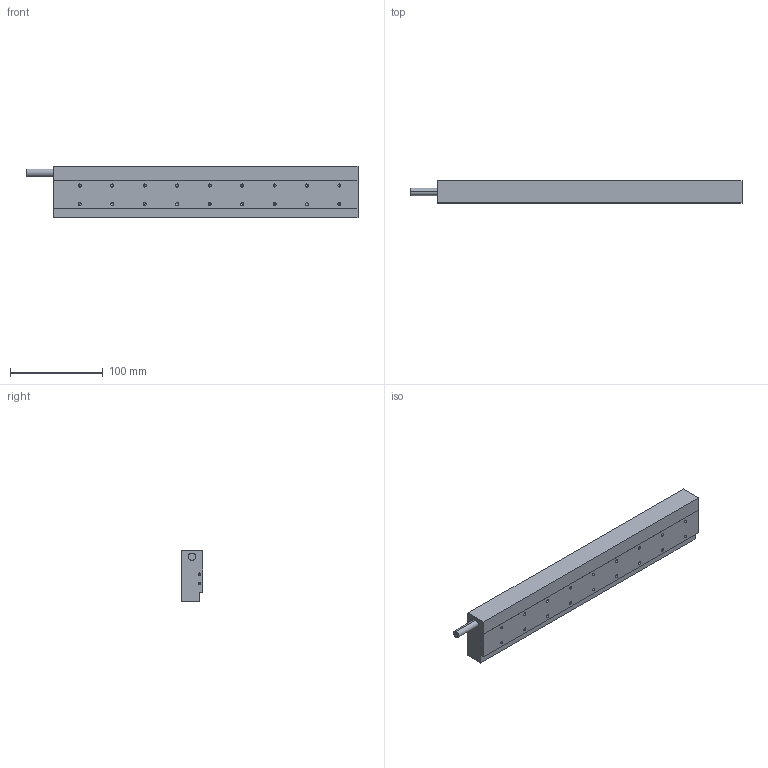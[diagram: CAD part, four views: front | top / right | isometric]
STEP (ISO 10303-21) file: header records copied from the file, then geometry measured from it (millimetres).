
FILE_DESCRIPTION (( 'STEP AP214' ), '1' );
FILE_NAME ('MK13雄赽.STEP', '2025-09-05T08:56:39', ( '' ), ( '' ), 'SwSTEP 2.0', 'SolidWorks 2016', '' );
FILE_SCHEMA (( 'AUTOMOTIVE_DESIGN' ));
Length unit declared in the file: millimetre
Products named in the file (1): MK13雄赽
Bounding box: 358 x 23.7 x 56 mm (x, y, z)
Volume: 421609.3 mm3; surface area: 56869.9 mm2
Topology: 1 solids, 1 shells, 93 faces, 230 edges, 120 vertices
Faces by surface type: cylinder 42, cone 40, plane 11
Entity records: 2999 total; most frequent: DIRECTION 462, CARTESIAN_POINT 404, ORIENTED_EDGE 380, EDGE_CURVE 190, AXIS2_PLACEMENT_3D 178, VERTEX_POINT 120, EDGE_LOOP 114, LINE 106
